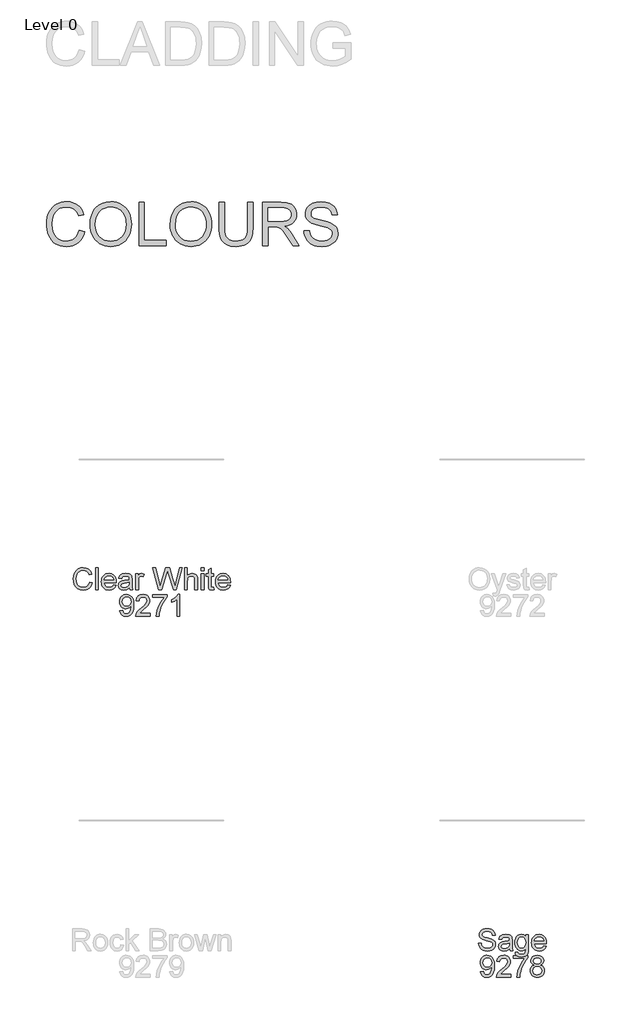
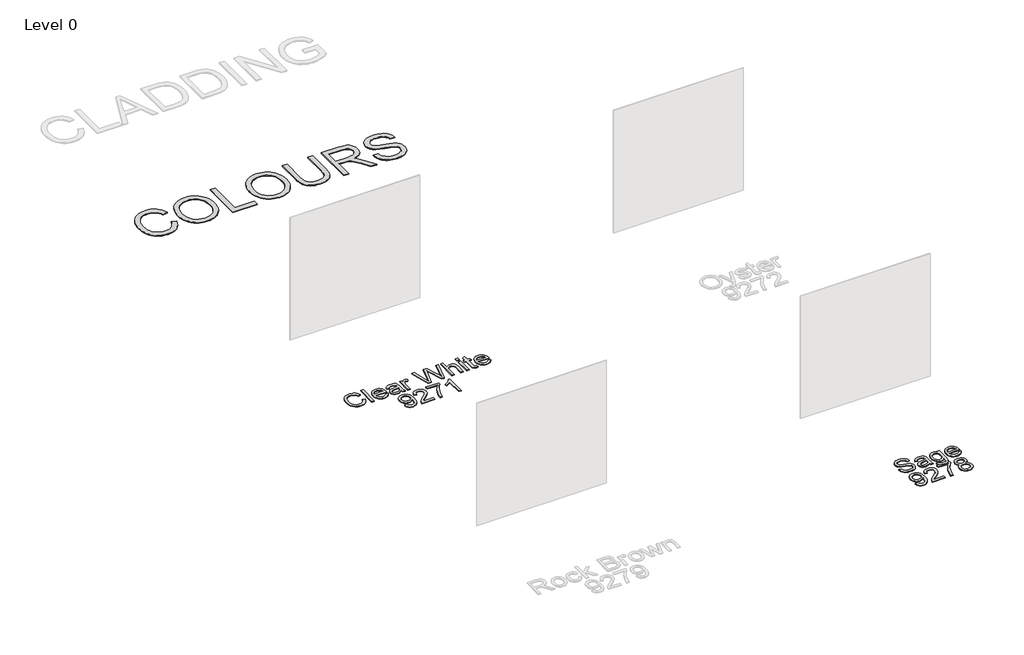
# One storey, part 2 of 6: 3 proxies.
"""IFC4 building model written with IfcOpenShell, lengths in millimetres."""

from ifc_helpers import new_model, si_unit, origin, origin_with_axes, place, context, project, spatial, polyline, outline, extrude, element, save

model = new_model("IFC4")

# Units and contexts
model_context = context("Model", 3, world=origin())
ifc_project = project(units=[si_unit("LENGTHUNIT", "METRE", prefix="MILLI")], contexts=[model_context])

# Site, building, storey
site = spatial("IfcSite", under=ifc_project)
building = spatial("IfcBuilding", under=site)
storey = spatial("IfcBuildingStorey", under=building, Name="Level 0", Elevation=0.0)

# Proxies
placement = place(None, origin())
element("IfcBuildingElementProxy", 1, Name="300mm Arial", ObjectType="300mm Arial", at=placement, inside=storey, context=model_context, shape_type="SweptSolid", body=[
    extrude(outline(polyline([(-10310.030397, -6895.733257), (-10272.3592807, -6905.4453417), (-10279.8134897, -6928.872527), (-10289.741705, -6949.3428607), (-10302.1439268, -6966.856343), (-10317.0201549, -6981.4129737), (-10334.0346972, -6992.856403), (-10352.8518613, -7001.0302811), (-10373.4716471, -7005.9346079), (-10395.8940547, -7007.5693835), (-10439.5892387, -7002.6213707), (-10474.2897079, -6987.7773322), (-10500.8875761, -6963.5523028), (-10520.2749573, -6930.4613173), (-10532.1115605, -6891.5577963), (-10536.0570949, -6849.8951604), (-10531.5965257, -6805.9516561), (-10518.2148181, -6768.0046283), (-10496.6109479, -6737.2588905), (-10467.483891, -6714.9192564), (-10432.9397716, -6701.3168196), (-10395.0847143, -6696.782674), (-10353.7807633, -6702.6503918), (-10335.8120271, -6709.9850391), (-10319.6321171, -6720.2535453), (-10305.5077478, -6733.1845974), (-10293.7056335, -6748.5068825), (-10277.0681703, -6786.3251516), (-10314.7392866, -6795.3014723), (-10327.7990974, -6767.8298843), (-10345.6413742, -6748.9851291), (-10368.4868461, -6738.086625), (-10396.5562423, -6734.4537903), (-10428.9114638, -6738.4820981), (-10455.4909379, -6750.5670217), (-10475.6600683, -6769.439368), (-10488.7842585, -6793.8299443), (-10495.9855486, -6821.4026999), (-10498.3859786, -6849.821584), (-10495.5440902, -6884.6232207), (-10487.0184249, -6914.7159679), (-10472.4870861, -6938.9501944), (-10451.628177, -6956.1762688), (-10426.6213984, -6966.4677676), (-10399.6464511, -6969.8982672), (-10368.2017375, -6965.2261659), (-10341.9993424, -6951.2098619), (-10322.2164881, -6927.996508), (-10310.030397, -6895.733257)])), origin_with_axes(), (0.0, 0.0, 1.0), 10.0),
    extrude(outline(polyline([(-10225.2703854, -7002.860494), (-10225.2703854, -6701.4915635), (-10187.599269, -6701.4915635), (-10187.599269, -7002.860494), (-10225.2703854, -7002.860494)])), origin_with_axes(), (0.0, 0.0, 1.0), 10.0),
    extrude(outline(polyline([(-9976.1406982, -6936.9360404), (-9939.2053459, -6941.64493), (-9952.5134771, -6969.4752029), (-9973.7494652, -6990.2789297), (-10002.4350638, -7003.2467701), (-10038.0920262, -7007.5693835), (-10061.4663285, -7005.7046817), (-10082.2930479, -7000.1105761), (-10100.5721846, -6990.7870668), (-10116.3037384, -6977.7341537), (-10128.9542805, -6961.3151204), (-10137.990382, -6941.8932503), (-10143.4120429, -6919.4685435), (-10145.2192632, -6894.0409998), (-10143.3936488, -6867.7512327), (-10137.9168056, -6844.5792656), (-10128.7887336, -6824.5250983), (-10116.0094328, -6807.5887309), (-10100.3192657, -6794.133447), (-10082.4585948, -6784.5225298), (-10062.4274202, -6778.7559796), (-10040.2257418, -6776.8337961), (-10018.739134, -6778.751381), (-9999.3080669, -6784.5041357), (-9981.9325404, -6794.0920602), (-9966.6125545, -6807.5151545), (-9954.106866, -6824.4147337), (-9945.1742313, -6844.4321128), (-9939.8146505, -6867.5672917), (-9938.0281235, -6893.8202706), (-9938.2488527, -6903.9738137), (-10107.5481469, -6903.9738137), (-10101.0274385, -6932.1719686), (-10085.8798974, -6952.902119), (-10064.0185098, -6965.6492302), (-10037.3562622, -6969.8982672), (-10017.3066935, -6967.9300985), (-10000.4209099, -6962.0255925), (-9986.6989115, -6951.8168672), (-9976.1406982, -6936.9360404)]), holes=[polyline([(-10107.5481469, -6866.3026974), (-9975.6992398, -6866.3026974), (-9980.7944055, -6846.4002814), (-9990.7824016, -6832.1632482), (-10012.7449567, -6818.9194964), (-10040.3728946, -6814.5049125), (-10065.7659493, -6818.0273826), (-10086.7628142, -6828.5947929), (-10101.3585323, -6845.0667092), (-10107.5481469, -6866.3026974)])]), origin_with_axes(), (0.0, 0.0, 1.0), 10.0),
    extrude(outline(polyline([(-9759.0903211, -6974.6071568), (-9777.0889477, -6990.0398064), (-9795.6210032, -7000.1381672), (-9815.1095519, -7005.7115794), (-9835.9776581, -7007.5693835), (-9867.4591598, -7003.0996173), (-9890.6817107, -6989.6903186), (-9905.0015174, -6969.3280501), (-9909.7747863, -6943.9993748), (-9907.9721645, -6928.3827841), (-9902.5642992, -6914.2009331), (-9894.2225749, -6902.0608273), (-9883.6183764, -6892.5694718), (-9857.2412374, -6880.2086368), (-9824.6468926, -6874.5432541), (-9786.1296477, -6868.5835657), (-9759.3110503, -6861.5938078), (-9759.0903211, -6853.2060983), (-9761.6838891, -6836.3938912), (-9769.4645933, -6825.3942195), (-9786.8654117, -6817.2272392), (-9811.1088352, -6814.5049125), (-9833.5496369, -6816.3167313), (-9849.2214099, -6821.7521878), (-9859.9083818, -6831.8045633), (-9867.3947804, -6847.4671392), (-9905.0658967, -6842.7582497), (-9898.5267943, -6822.156858), (-9888.7687244, -6805.9700502), (-9874.881179, -6793.590821), (-9855.9536504, -6784.4121652), (-9832.8046758, -6778.7283884), (-9806.2527928, -6776.8337961), (-9780.7861617, -6778.5076592), (-9760.5986372, -6783.5292485), (-9745.3775197, -6791.0800264), (-9734.8101094, -6800.3414556), (-9727.8019574, -6811.7917827), (-9723.2586147, -6825.9092543), (-9721.4192048, -6858.8714811), (-9721.4192048, -6905.7396473), (-9719.5062184, -6971.1858542), (-9712.0014257, -7002.860494), (-9749.672542, -7002.860494), (-9759.0903211, -6974.6071568)]), holes=[polyline([(-9759.0903211, -6899.2649241), (-9819.8644267, -6910.8164188), (-9852.2748304, -6916.9232599), (-9866.953322, -6926.8560738), (-9872.10367, -6941.3506244), (-9869.2985698, -6952.5526311), (-9860.8832691, -6961.7312869), (-9847.0417091, -6967.8565221), (-9827.9578306, -6969.8982672), (-9807.7243208, -6967.64499), (-9789.8452559, -6960.8851583), (-9775.3507053, -6950.9247533), (-9765.2707386, -6939.069756), (-9760.8009723, -6926.8560738), (-9759.3110503, -6909.933502), (-9759.0903211, -6899.2649241)])]), origin_with_axes(), (0.0, 0.0, 1.0), 10.0),
    extrude(outline(polyline([(-9669.6214198, -7002.860494), (-9669.6214198, -6781.5426857), (-9636.6591931, -6781.5426857), (-9636.6591931, -6814.2841833), (-9624.482299, -6795.3014723), (-9613.2618982, -6784.1178596), (-9602.0047091, -6778.654812), (-9589.7174505, -6776.8337961), (-9570.9554687, -6779.7400639), (-9551.8991814, -6788.4588672), (-9564.4807456, -6822.2304343), (-9577.7244974, -6816.4362929), (-9590.9682493, -6814.5049125), (-9602.2162413, -6816.3627165), (-9612.2686168, -6821.9361288), (-9620.3896118, -6830.8020848), (-9625.8434624, -6842.5375205), (-9630.4235933, -6863.5803706), (-9631.9503035, -6886.5362071), (-9631.9503035, -7002.860494), (-9669.6214198, -7002.860494)])), origin_with_axes(), (0.0, 0.0, 1.0), 10.0),
    extrude(outline(polyline([(-9351.9921052, -7002.860494), (-9434.1769429, -6701.4915635), (-9395.3286042, -6701.4915635), (-9347.6510977, -6899.5592297), (-9332.9358179, -6960.7012173), (-9317.1904685, -6906.622564), (-9257.4464324, -6701.4915635), (-9201.4547928, -6701.4915635), (-9158.0447173, -6850.189466), (-9139.4482825, -6905.3717653), (-9125.7446782, -6960.7012173), (-9111.4708568, -6901.3250633), (-9063.3518918, -6701.4915635), (-9024.5035531, -6701.4915635), (-9106.7619672, -7002.860494), (-9147.0082575, -7002.860494), (-9219.2602813, -6770.359073), (-9229.340248, -6737.9118811), (-9240.6710135, -6776.9809489), (-9306.5218906, -7002.860494), (-9351.9921052, -7002.860494)])), origin_with_axes(), (0.0, 0.0, 1.0), 10.0),
    extrude(outline(polyline([(-8991.5413263, -7002.860494), (-8991.5413263, -6701.4915635), (-8953.87021, -6701.4915635), (-8953.87021, -6812.2976205), (-8940.0332485, -6796.7821973), (-8924.4948327, -6785.6997522), (-8907.2549627, -6779.0502852), (-8888.3136385, -6776.8337961), (-8865.5601371, -6779.2526203), (-8846.007209, -6786.5090926), (-8830.6113475, -6798.0329961), (-8820.3290458, -6813.2541137), (-8814.5349043, -6834.1682051), (-8812.6035239, -6862.7710302), (-8812.6035239, -7002.860494), (-8850.2746402, -7002.860494), (-8850.2746402, -6866.6705794), (-8853.2728784, -6843.0893435), (-8862.2675932, -6826.9393239), (-8876.7621438, -6817.6135153), (-8896.2598896, -6814.5049125), (-8912.1799829, -6816.6018398), (-8927.125189, -6822.8926219), (-8939.5044181, -6832.7702535), (-8947.7265807, -6845.6277292), (-8952.3343027, -6862.7158479), (-8953.87021, -6885.2854083), (-8953.87021, -7002.860494), (-8991.5413263, -7002.860494)])), origin_with_axes(), (0.0, 0.0, 1.0), 10.0),
    extrude(outline(polyline([(-8760.805739, -6739.1626798), (-8760.805739, -6701.4915635), (-8723.1346226, -6701.4915635), (-8723.1346226, -6739.1626798), (-8760.805739, -6739.1626798)])), origin_with_axes(), (0.0, 0.0, 1.0), 10.0),
    extrude(outline(polyline([(-8760.805739, -7002.860494), (-8760.805739, -6781.5426857), (-8723.1346226, -6781.5426857), (-8723.1346226, -7002.860494), (-8760.805739, -7002.860494)])), origin_with_axes(), (0.0, 0.0, 1.0), 10.0),
    extrude(outline(polyline([(-8586.576826, -6971.4433716), (-8581.8679365, -7003.96414), (-8610.0476973, -7007.5693835), (-8628.1290974, -7006.005885), (-8641.6119725, -7001.3153896), (-8651.1401162, -6994.0865084), (-8657.3573219, -6984.9078526), (-8660.7786245, -6969.1441091), (-8661.9190586, -6942.1599648), (-8661.9190586, -6819.213802), (-8690.1723959, -6819.213802), (-8690.1723959, -6781.5426857), (-8661.9190586, -6781.5426857), (-8661.9190586, -6727.758338), (-8624.2479423, -6705.6118419), (-8624.2479423, -6781.5426857), (-8586.576826, -6781.5426857), (-8586.576826, -6819.213802), (-8624.2479423, -6819.213802), (-8624.2479423, -6941.0563188), (-8622.2613796, -6960.4804881), (-8615.8234447, -6967.3598814), (-8602.984363, -6969.8982672), (-8586.576826, -6971.4433716)])), origin_with_axes(), (0.0, 0.0, 1.0), 10.0),
    extrude(outline(polyline([(-8393.9538134, -6936.9360404), (-8357.018461, -6941.64493), (-8370.3265922, -6969.4752029), (-8391.5625804, -6990.2789297), (-8420.248179, -7003.2467701), (-8455.9051413, -7007.5693835), (-8479.2794436, -7005.7046817), (-8500.1061631, -7000.1105761), (-8518.3852997, -6990.7870668), (-8534.1168535, -6977.7341537), (-8546.7673956, -6961.3151204), (-8555.8034971, -6941.8932503), (-8561.225158, -6919.4685435), (-8563.0323783, -6894.0409998), (-8561.2067639, -6867.7512327), (-8555.7299207, -6844.5792656), (-8546.6018487, -6824.5250983), (-8533.8225479, -6807.5887309), (-8518.1323808, -6794.133447), (-8500.27171, -6784.5225298), (-8480.2405353, -6778.7559796), (-8458.0388569, -6776.8337961), (-8436.5522491, -6778.751381), (-8417.121182, -6784.5041357), (-8399.7456555, -6794.0920602), (-8384.4256697, -6807.5151545), (-8371.9199811, -6824.4147337), (-8362.9873464, -6844.4321128), (-8357.6277656, -6867.5672917), (-8355.8412387, -6893.8202706), (-8356.0619679, -6903.9738137), (-8525.361262, -6903.9738137), (-8518.8405537, -6932.1719686), (-8503.6930125, -6952.902119), (-8481.831625, -6965.6492302), (-8455.1693774, -6969.8982672), (-8435.1198086, -6967.9300985), (-8418.234025, -6962.0255925), (-8404.5120266, -6951.8168672), (-8393.9538134, -6936.9360404)]), holes=[polyline([(-8525.361262, -6866.3026974), (-8393.512355, -6866.3026974), (-8398.6075206, -6846.4002814), (-8408.5955168, -6832.1632482), (-8430.5580719, -6818.9194964), (-8458.1860097, -6814.5049125), (-8483.5790644, -6818.0273826), (-8504.5759293, -6828.5947929), (-8519.1716475, -6845.0667092), (-8525.361262, -6866.3026974)])]), origin_with_axes(), (0.0, 0.0, 1.0), 10.0),
    extrude(outline(polyline([(-9888.5847834, -7293.4427149), (-9850.9136671, -7288.7338254), (-9844.4757321, -7310.1169663), (-9833.9910953, -7324.6758963), (-9819.7172739, -7333.0360146), (-9801.9117853, -7335.8227207), (-9785.9365097, -7334.029296), (-9771.4143679, -7328.6490218), (-9759.3478385, -7320.2705094), (-9750.7393998, -7309.4823699), (-9738.4153529, -7276.7408723), (-9732.9706994, -7233.0364913), (-9733.1914286, -7225.6788514), (-9746.2420424, -7241.6081418), (-9763.320964, -7254.2264942), (-9783.1957888, -7262.4486568), (-9804.6341121, -7265.1893777), (-9822.5292719, -7263.5155146), (-9838.9850934, -7258.4939254), (-9854.0015766, -7250.12461), (-9867.5787214, -7238.4075684), (-9878.8290127, -7223.9544045), (-9886.864935, -7207.3767221), (-9891.6864884, -7188.6745212), (-9893.2936729, -7167.8478018), (-9891.6083135, -7146.326705), (-9886.5522353, -7127.0129003), (-9878.1254384, -7109.9063875), (-9866.3279227, -7095.0071667), (-9851.9920212, -7082.9360387), (-9835.9500669, -7074.3138045), (-9818.2020599, -7069.1404639), (-9798.7480001, -7067.4160171), (-9770.6510128, -7071.3523544), (-9745.074017, -7083.1613665), (-9723.681679, -7102.254442), (-9708.1386647, -7128.0429699), (-9698.6749004, -7163.6907352), (-9695.5203123, -7212.3615232), (-9698.6657034, -7263.96617), (-9708.1018765, -7303.8537754), (-9723.7460584, -7333.8269609), (-9745.5154754, -7355.6883485), (-9772.4720286, -7369.0424649), (-9803.6776189, -7373.4938371), (-9835.8856876, -7368.2423216), (-9861.5822449, -7352.4877751), (-9879.5532804, -7327.2234791), (-9888.5847834, -7293.4427149)]), holes=[polyline([(-9733.1914286, -7166.964885), (-9737.2565246, -7141.4338745), (-9749.4518128, -7121.788976), (-9768.3793414, -7109.262594), (-9792.641159, -7105.0871334), (-9817.8042875, -7109.5844908), (-9837.9642208, -7123.0765629), (-9851.2079727, -7143.7239399), (-9855.6225566, -7169.6872117), (-9851.447096, -7192.964945), (-9838.920714, -7211.4418182), (-9819.2574214, -7223.4991506), (-9793.6712286, -7227.5182614), (-9769.6025491, -7223.4991506), (-9750.224365, -7211.4418182), (-9737.4496627, -7192.2843633), (-9733.1914286, -7166.964885)])]), origin_with_axes(), (0.0, 0.0, 1.0), 10.0),
    extrude(outline(polyline([(-9469.4936145, -7331.1138312), (-9469.4936145, -7368.7849475), (-9667.2669751, -7368.7849475), (-9663.2202731, -7342.8124787), (-9653.9312527, -7322.5145896), (-9640.338013, -7302.8237058), (-9620.6747204, -7282.213117), (-9593.1755412, -7259.156113), (-9552.5245808, -7223.0484951), (-9528.1340045, -7196.3954446), (-9515.9387164, -7174.7639833), (-9511.8736203, -7153.7211331), (-9515.7087901, -7134.8579838), (-9527.2142995, -7119.1770138), (-9544.9002264, -7108.6096035), (-9567.2766488, -7105.0871334), (-9590.7751112, -7108.52683), (-9609.0312552, -7118.84592), (-9620.8126761, -7135.2350629), (-9624.8869692, -7156.8849183), (-9662.5580855, -7152.1760288), (-9653.425415, -7115.7373171), (-9644.8790564, -7101.2013798), (-9633.6793489, -7089.1210548), (-9620.0838099, -7079.6251008), (-9604.3499568, -7072.8422765), (-9566.4673084, -7067.4160171), (-9546.2774846, -7068.9243332), (-9528.3087484, -7073.4492818), (-9512.5610998, -7080.9908627), (-9499.0345387, -7091.549076), (-9488.1705235, -7104.3421723), (-9480.4105127, -7118.5884026), (-9475.7545062, -7134.2877667), (-9474.202504, -7151.4402648), (-9475.8763671, -7169.4572855), (-9480.8979563, -7187.1616065), (-9489.8098976, -7205.1694302), (-9503.154817, -7224.0969588), (-9524.4275934, -7246.6941104), (-9557.1231057, -7275.7108027), (-9600.4596047, -7311.9471793), (-9617.4557529, -7331.1138312), (-9469.4936145, -7331.1138312)])), origin_with_axes(), (0.0, 0.0, 1.0), 10.0),
    extrude(outline(polyline([(-9431.8224982, -7109.7960229), (-9431.8224982, -7072.1249066), (-9234.0491375, -7072.1249066), (-9234.0491375, -7102.5855358), (-9262.2380954, -7138.2608923), (-9290.1511418, -7183.6299393), (-9314.7716443, -7234.5540045), (-9333.0829706, -7286.8944154), (-9342.0592913, -7326.0554538), (-9347.0624865, -7368.7849475), (-9384.7336028, -7368.7849475), (-9380.6593097, -7329.9550029), (-9369.7608056, -7283.8042066), (-9352.332396, -7234.8850983), (-9328.6683867, -7187.7502177), (-9301.0404489, -7145.1402856), (-9271.7202539, -7109.7960229), (-9431.8224982, -7109.7960229)])), origin_with_axes(), (0.0, 0.0, 1.0), 10.0),
    extrude(outline(polyline([(-9059.8202246, -7368.7849475), (-9097.4913409, -7368.7849475), (-9097.4913409, -7133.9290818), (-9133.1758945, -7159.3497277), (-9172.8335735, -7178.3692268), (-9172.8335735, -7142.7582497), (-9143.2466641, -7126.6634124), (-9117.6144861, -7107.5151545), (-9097.4085675, -7087.1528861), (-9084.1004363, -7067.4160171), (-9059.8202246, -7067.4160171), (-9059.8202246, -7368.7849475)])), origin_with_axes(), (0.0, 0.0, 1.0), 10.0),
])
element("IfcBuildingElementProxy", 2, Name="300mm Arial", ObjectType="300mm Arial", at=placement, inside=storey, context=model_context, shape_type="SweptSolid", body=[
    extrude(outline(polyline([(-4916.8381206, -11899.2649241), (-4879.1670043, -11899.2649241), (-4874.8443908, -11920.1698185), (-4867.0268984, -11936.9728286), (-4854.8316103, -11950.308551), (-4837.3756096, -11960.8115819), (-4816.0384539, -11967.6265959), (-4792.1997006, -11969.8982672), (-4771.2120328, -11968.1784189), (-4752.8363271, -11963.0188739), (-4737.9463034, -11954.8518936), (-4727.4156813, -11944.1097394), (-4721.1524903, -11931.7764955), (-4719.06476, -11918.8362463), (-4720.6282585, -11906.2270909), (-4725.3187539, -11895.3285868), (-4734.8468976, -11886.0303694), (-4750.9233408, -11878.222074), (-4805.7745463, -11863.837888), (-4841.7809965, -11854.3189414), (-4864.8196065, -11845.2598472), (-4883.5723912, -11832.5863125), (-4896.8621283, -11817.2272392), (-4904.7807882, -11799.5137211), (-4907.4203415, -11779.7768521), (-4904.1553888, -11757.7131294), (-4894.3605307, -11737.1393289), (-4878.2932846, -11719.7017223), (-4856.2111678, -11707.0465817), (-4829.70527, -11699.3486509), (-4800.3666809, -11696.782674), (-4768.5816765, -11699.4682126), (-4740.7697977, -11707.5248283), (-4717.9243258, -11720.7869742), (-4701.0385422, -11739.0891034), (-4690.3515703, -11761.2907818), (-4686.1025332, -11786.2515752), (-4723.7736495, -11786.2515752), (-4730.689831, -11763.7739853), (-4745.1108052, -11747.5503893), (-4767.6435775, -11737.7279401), (-4798.8951529, -11734.4537903), (-4830.8824924, -11737.6911519), (-4852.8266534, -11747.4032365), (-4865.5185823, -11761.695452), (-4869.7492252, -11778.6732061), (-4866.750987, -11793.1493626), (-4857.7562722, -11804.7928278), (-4836.4926928, -11815.2038882), (-4796.2464026, -11825.8356779), (-4754.7125253, -11835.9340387), (-4729.5861851, -11844.7448125), (-4708.1110736, -11858.4116286), (-4693.1290793, -11875.2790181), (-4684.3275026, -11895.1630399), (-4681.3936437, -11917.8797531), (-4684.768961, -11941.102304), (-4694.8949129, -11962.9452975), (-4711.3576322, -11981.7440675), (-4733.7432516, -11995.8339479), (-4760.6630166, -12004.6355246), (-4790.7281726, -12007.5693835), (-4827.6359338, -12004.4055984), (-4858.0137896, -11994.9142429), (-4882.2112278, -11979.0585289), (-4900.5777364, -11956.8016682), (-4912.3683544, -11929.6887651), (-4916.8381206, -11899.2649241)])), origin_with_axes(), (0.0, 0.0, 1.0), 10.0),
    extrude(outline(polyline([(-4488.3291726, -11974.6071568), (-4506.3277992, -11990.0398064), (-4524.8598547, -12000.1381672), (-4544.3484034, -12005.7115794), (-4565.2165096, -12007.5693835), (-4596.6980113, -12003.0996173), (-4619.9205623, -11989.6903186), (-4634.240369, -11969.3280501), (-4639.0136378, -11943.9993748), (-4637.2110161, -11928.3827841), (-4631.8031507, -11914.2009331), (-4623.4614265, -11902.0608273), (-4612.857228, -11892.5694718), (-4586.4800889, -11880.2086368), (-4553.8857442, -11874.5432541), (-4515.3684993, -11868.5835657), (-4488.5499018, -11861.5938078), (-4488.3291726, -11853.2060983), (-4490.9227407, -11836.3938912), (-4498.7034449, -11825.3942195), (-4516.1042632, -11817.2272392), (-4540.3476867, -11814.5049125), (-4562.7884884, -11816.3167313), (-4578.4602614, -11821.7521878), (-4589.1472334, -11831.8045633), (-4596.633632, -11847.4671392), (-4634.3047483, -11842.7582497), (-4627.7656458, -11822.156858), (-4618.0075759, -11805.9700502), (-4604.1200306, -11793.590821), (-4585.1925019, -11784.4121652), (-4562.0435274, -11778.7283884), (-4535.4916444, -11776.8337961), (-4510.0250133, -11778.5076592), (-4489.8374888, -11783.5292485), (-4474.6163712, -11791.0800264), (-4464.0489609, -11800.3414556), (-4457.0408089, -11811.7917827), (-4452.4974663, -11825.9092543), (-4450.6580563, -11858.8714811), (-4450.6580563, -11905.7396473), (-4448.7450699, -11971.1858542), (-4441.2402772, -12002.860494), (-4478.9113935, -12002.860494), (-4488.3291726, -11974.6071568)]), holes=[polyline([(-4488.3291726, -11899.2649241), (-4549.1032782, -11910.8164188), (-4581.513682, -11916.9232599), (-4596.1921736, -11926.8560738), (-4601.3425215, -11941.3506244), (-4598.5374213, -11952.5526311), (-4590.1221207, -11961.7312869), (-4576.2805606, -11967.8565221), (-4557.1966821, -11969.8982672), (-4536.9631724, -11967.64499), (-4519.0841074, -11960.8851583), (-4504.5895568, -11950.9247533), (-4494.5095901, -11939.069756), (-4490.0398239, -11926.8560738), (-4488.5499018, -11909.933502), (-4488.3291726, -11899.2649241)])]), origin_with_axes(), (0.0, 0.0, 1.0), 10.0),
    extrude(outline(polyline([(-4408.2780505, -12021.6960521), (-4370.6069342, -12026.4049417), (-4366.4498676, -12038.1771655), (-4358.3932519, -12046.2705694), (-4342.555932, -12052.5613515), (-4321.8257816, -12054.6582789), (-4299.7160737, -12052.28544), (-4283.2717485, -12045.1669234), (-4271.8674067, -12033.7625816), (-4264.8776487, -12018.532267), (-4262.3024748, -11974.6071568), (-4274.8380538, -11986.9679918), (-4288.8267666, -11995.7971597), (-4304.2686134, -12001.0946604), (-4321.163594, -12002.860494), (-4341.8178688, -12000.8049533), (-4360.0027356, -11994.6383314), (-4375.7181946, -11984.3606281), (-4388.9642457, -11969.9718436), (-4399.4741745, -11952.708981), (-4406.9812664, -11933.8090435), (-4411.4855216, -11913.2720311), (-4412.98694, -11891.0979438), (-4410.2922044, -11860.6832999), (-4402.2079975, -11832.7150712), (-4389.019428, -11809.0142737), (-4371.0116044, -11791.4019232), (-4348.8007289, -11780.4758279), (-4323.003004, -11776.8337961), (-4305.3860549, -11778.8939353), (-4289.3969837, -11785.0743528), (-4275.0357903, -11795.3750487), (-4262.3024748, -11809.7960229), (-4262.3024748, -11781.5426857), (-4224.6313585, -11781.5426857), (-4224.6313585, -11972.620594), (-4227.2065324, -12016.7388422), (-4234.9320543, -12045.7923228), (-4248.2401855, -12065.0601423), (-4267.5631873, -12079.8214074), (-4292.4779954, -12089.2023982), (-4322.5615456, -12092.3293952), (-4357.6115027, -12087.9240083), (-4385.2118494, -12074.7078476), (-4395.606815, -12064.7865301), (-4402.9161704, -12052.644125), (-4407.1399155, -12038.2806323), (-4408.2780505, -12021.6960521)]), holes=[polyline([(-4375.3158237, -11888.5227699), (-4371.2967129, -11923.0760863), (-4359.2393805, -11946.8320661), (-4341.1119952, -11960.6000498), (-4318.8827256, -11965.1893777), (-4296.819003, -11960.6276409), (-4278.5996472, -11946.9424307), (-4266.3767679, -11923.4899535), (-4262.3024748, -11889.6264159), (-4266.4963295, -11856.9676917), (-4279.0778938, -11833.4508352), (-4297.563964, -11819.2413931), (-4319.4713368, -11814.5049125), (-4340.9832365, -11819.1678167), (-4359.0186513, -11833.1565296), (-4371.2415306, -11856.3238983), (-4375.3158237, -11888.5227699)])]), origin_with_axes(), (0.0, 0.0, 1.0), 10.0),
    extrude(outline(polyline([(-4013.1727876, -11936.9360404), (-3976.2374353, -11941.64493), (-3989.5455665, -11969.4752029), (-4010.7815547, -11990.2789297), (-4039.4671532, -12003.2467701), (-4075.1241156, -12007.5693835), (-4098.4984179, -12005.7046817), (-4119.3251374, -12000.1105761), (-4137.604274, -11990.7870668), (-4153.3358278, -11977.7341537), (-4165.9863699, -11961.3151204), (-4175.0224714, -11941.8932503), (-4180.4441323, -11919.4685435), (-4182.2513526, -11894.0409998), (-4180.4257382, -11867.7512327), (-4174.948895, -11844.5792656), (-4165.820823, -11824.5250983), (-4153.0415222, -11807.5887309), (-4137.3513551, -11794.133447), (-4119.4906842, -11784.5225298), (-4099.4595096, -11778.7559796), (-4077.2578312, -11776.8337961), (-4055.7712234, -11778.751381), (-4036.3401563, -11784.5041357), (-4018.9646298, -11794.0920602), (-4003.644644, -11807.5151545), (-3991.1389554, -11824.4147337), (-3982.2063207, -11844.4321128), (-3976.8467399, -11867.5672917), (-3975.0602129, -11893.8202706), (-3975.2809421, -11903.9738137), (-4144.5802363, -11903.9738137), (-4138.059528, -11932.1719686), (-4122.9119868, -11952.902119), (-4101.0505992, -11965.6492302), (-4074.3883516, -11969.8982672), (-4054.3387829, -11967.9300985), (-4037.4529993, -11962.0255925), (-4023.7310009, -11951.8168672), (-4013.1727876, -11936.9360404)]), holes=[polyline([(-4144.5802363, -11866.3026974), (-4012.7313292, -11866.3026974), (-4017.8264949, -11846.4002814), (-4027.8144911, -11832.1632482), (-4049.7770462, -11818.9194964), (-4077.404984, -11814.5049125), (-4102.7980387, -11818.0273826), (-4123.7949036, -11828.5947929), (-4138.3906218, -11845.0667092), (-4144.5802363, -11866.3026974)])]), origin_with_axes(), (0.0, 0.0, 1.0), 10.0),
    extrude(outline(polyline([(-4888.5847834, -12293.4427149), (-4850.9136671, -12288.7338254), (-4844.4757321, -12310.1169663), (-4833.9910953, -12324.6758963), (-4819.7172739, -12333.0360146), (-4801.9117853, -12335.8227207), (-4785.9365097, -12334.029296), (-4771.4143679, -12328.6490218), (-4759.3478385, -12320.2705094), (-4750.7393998, -12309.4823699), (-4738.4153529, -12276.7408723), (-4732.9706994, -12233.0364913), (-4733.1914286, -12225.6788514), (-4746.2420424, -12241.6081418), (-4763.320964, -12254.2264942), (-4783.1957888, -12262.4486568), (-4804.6341121, -12265.1893777), (-4822.5292719, -12263.5155146), (-4838.9850934, -12258.4939254), (-4854.0015766, -12250.12461), (-4867.5787214, -12238.4075684), (-4878.8290127, -12223.9544045), (-4886.864935, -12207.3767221), (-4891.6864884, -12188.6745212), (-4893.2936729, -12167.8478018), (-4891.6083135, -12146.326705), (-4886.5522353, -12127.0129003), (-4878.1254384, -12109.9063875), (-4866.3279227, -12095.0071667), (-4851.9920212, -12082.9360387), (-4835.9500669, -12074.3138045), (-4818.2020599, -12069.1404639), (-4798.7480001, -12067.4160171), (-4770.6510128, -12071.3523544), (-4745.074017, -12083.1613665), (-4723.681679, -12102.254442), (-4708.1386647, -12128.0429699), (-4698.6749004, -12163.6907352), (-4695.5203123, -12212.3615232), (-4698.6657034, -12263.96617), (-4708.1018765, -12303.8537754), (-4723.7460584, -12333.8269609), (-4745.5154754, -12355.6883485), (-4772.4720286, -12369.0424649), (-4803.6776189, -12373.4938371), (-4835.8856876, -12368.2423216), (-4861.5822449, -12352.4877751), (-4879.5532804, -12327.2234791), (-4888.5847834, -12293.4427149)]), holes=[polyline([(-4733.1914286, -12166.964885), (-4737.2565246, -12141.4338745), (-4749.4518128, -12121.788976), (-4768.3793414, -12109.262594), (-4792.641159, -12105.0871334), (-4817.8042875, -12109.5844908), (-4837.9642208, -12123.0765629), (-4851.2079727, -12143.7239399), (-4855.6225566, -12169.6872117), (-4851.447096, -12192.964945), (-4838.920714, -12211.4418182), (-4819.2574214, -12223.4991506), (-4793.6712286, -12227.5182614), (-4769.6025491, -12223.4991506), (-4750.224365, -12211.4418182), (-4737.4496627, -12192.2843633), (-4733.1914286, -12166.964885)])]), origin_with_axes(), (0.0, 0.0, 1.0), 10.0),
    extrude(outline(polyline([(-4469.4936145, -12331.1138312), (-4469.4936145, -12368.7849475), (-4667.2669751, -12368.7849475), (-4663.2202731, -12342.8124787), (-4653.9312527, -12322.5145896), (-4640.338013, -12302.8237058), (-4620.6747204, -12282.213117), (-4593.1755412, -12259.156113), (-4552.5245808, -12223.0484951), (-4528.1340045, -12196.3954446), (-4515.9387164, -12174.7639833), (-4511.8736203, -12153.7211331), (-4515.7087901, -12134.8579838), (-4527.2142995, -12119.1770138), (-4544.9002264, -12108.6096035), (-4567.2766488, -12105.0871334), (-4590.7751112, -12108.52683), (-4609.0312552, -12118.84592), (-4620.8126761, -12135.2350629), (-4624.8869692, -12156.8849183), (-4662.5580855, -12152.1760288), (-4653.425415, -12115.7373171), (-4644.8790564, -12101.2013798), (-4633.6793489, -12089.1210548), (-4620.0838099, -12079.6251008), (-4604.3499568, -12072.8422765), (-4566.4673084, -12067.4160171), (-4546.2774846, -12068.9243332), (-4528.3087484, -12073.4492818), (-4512.5610998, -12080.9908627), (-4499.0345387, -12091.549076), (-4488.1705235, -12104.3421723), (-4480.4105127, -12118.5884026), (-4475.7545062, -12134.2877667), (-4474.202504, -12151.4402648), (-4475.8763671, -12169.4572855), (-4480.8979563, -12187.1616065), (-4489.8098976, -12205.1694302), (-4503.154817, -12224.0969588), (-4524.4275934, -12246.6941104), (-4557.1231057, -12275.7108027), (-4600.4596047, -12311.9471793), (-4617.4557529, -12331.1138312), (-4469.4936145, -12331.1138312)])), origin_with_axes(), (0.0, 0.0, 1.0), 10.0),
    extrude(outline(polyline([(-4431.8224982, -12109.7960229), (-4431.8224982, -12072.1249066), (-4234.0491375, -12072.1249066), (-4234.0491375, -12102.5855358), (-4262.2380954, -12138.2608923), (-4290.1511418, -12183.6299393), (-4314.7716443, -12234.5540045), (-4333.0829706, -12286.8944154), (-4342.0592913, -12326.0554538), (-4347.0624865, -12368.7849475), (-4384.7336028, -12368.7849475), (-4380.6593097, -12329.9550029), (-4369.7608056, -12283.8042066), (-4352.332396, -12234.8850983), (-4328.6683867, -12187.7502177), (-4301.0404489, -12145.1402856), (-4271.7202539, -12109.7960229), (-4431.8224982, -12109.7960229)])), origin_with_axes(), (0.0, 0.0, 1.0), 10.0),
    extrude(outline(polyline([(-4146.1989171, -12202.7965913), (-4166.3680475, -12192.8637774), (-4180.5223072, -12179.3992964), (-4188.8824256, -12162.6790597), (-4191.6691317, -12142.9789789), (-4190.1516185, -12127.6153071), (-4185.5990788, -12113.5300252), (-4178.0115126, -12100.7231332), (-4167.38892, -12089.1946312), (-4154.2417372, -12079.6664875), (-4139.0804005, -12072.8606706), (-4102.7152653, -12067.4160171), (-4066.1294008, -12072.9894293), (-4050.8025172, -12079.9561946), (-4037.4529993, -12089.709666), (-4026.6372687, -12101.4634957), (-4018.9117468, -12114.4313361), (-4014.2764336, -12128.613187), (-4012.7313292, -12144.0090485), (-4015.4812472, -12163.0745329), (-4023.7310009, -12179.509661), (-4037.572561, -12192.8913686), (-4057.0978979, -12202.7965913), (-4033.9121351, -12214.7435591), (-4017.0355486, -12232.3375155), (-4006.7440498, -12254.732332), (-4003.3135502, -12281.0818799), (-4005.0150044, -12299.8714528), (-4010.1193671, -12317.0975272), (-4018.6266382, -12332.7601031), (-4030.5368178, -12346.8591806), (-4045.2245065, -12358.5118428), (-4062.0643048, -12366.8351729), (-4081.0562128, -12371.829171), (-4102.2002305, -12373.4938371), (-4123.3442481, -12371.8222732), (-4142.3361561, -12366.8075818), (-4159.1759545, -12358.4497627), (-4173.8636431, -12346.748816), (-4185.7738227, -12332.5508703), (-4194.2810939, -12316.702054), (-4199.3854566, -12299.2023674), (-4201.0869108, -12280.0518103), (-4197.5184554, -12252.6813898), (-4186.8130894, -12230.1670117), (-4169.5226356, -12213.2812282), (-4146.1989171, -12202.7965913)]), holes=[polyline([(-4153.9980154, -12144.0826249), (-4150.6594863, -12160.52695), (-4140.643899, -12173.6603373), (-4124.245559, -12182.268776), (-4101.7587721, -12185.1382555), (-4079.796217, -12182.2871701), (-4063.6461974, -12173.7339137), (-4053.7133835, -12161.0419848), (-4050.4024456, -12145.774882), (-4053.8237481, -12129.9283651), (-4064.0876558, -12116.822569), (-4080.4584046, -12108.0209923), (-4102.2002305, -12105.0871334), (-4124.0800121, -12107.9566129), (-4140.4231698, -12116.5650516), (-4150.604304, -12129.1834041), (-4153.9980154, -12144.0826249)]), polyline([(-4163.4157945, -12278.7274351), (-4157.1250124, -12307.0911369), (-4148.4154061, -12319.2588339), (-4134.8681516, -12328.317928), (-4118.6445557, -12333.9465226), (-4101.9059249, -12335.8227207), (-4076.2645498, -12331.8771864), (-4057.0243215, -12320.0405832), (-4044.9945802, -12302.1155329), (-4040.9846665, -12279.9046575), (-4045.1233389, -12257.316703), (-4057.5393563, -12238.9961796), (-4077.221043, -12226.8560738), (-4103.1567237, -12222.8093718), (-4128.4394138, -12226.8008915), (-4147.4865041, -12238.7754504), (-4159.4334719, -12256.7464859), (-4163.4157945, -12278.7274351)])]), origin_with_axes(), (0.0, 0.0, 1.0), 10.0),
])
element("IfcBuildingElementProxy", 3, Name="600mm Arial", ObjectType="600mm Arial", at=placement, inside=storey, context=model_context, shape_type="SweptSolid", body=[
    extrude(outline(polyline([(-10453.6631268, -2025.6175733), (-10378.3208942, -2045.0417427), (-10393.229312, -2091.8961133), (-10413.0857427, -2132.8367808), (-10437.8901863, -2167.8637453), (-10467.6426426, -2196.9770067), (-10501.6717272, -2219.8638653), (-10539.3060553, -2236.2116215), (-10580.5456269, -2246.0202752), (-10625.3904421, -2249.2898264), (-10671.3343048, -2246.81582), (-10712.7808101, -2239.3938007), (-10749.729958, -2227.0237686), (-10782.1817485, -2209.7057237), (-10810.5822385, -2187.6971834), (-10835.377485, -2161.255665), (-10856.5674879, -2130.3811685), (-10874.1522473, -2095.073694), (-10887.9616177, -2056.8599518), (-10897.8254537, -2017.266652), (-10903.7437553, -1976.2937948), (-10905.7165225, -1933.9413801), (-10903.4862379, -1888.4987567), (-10896.7953841, -1846.0543715), (-10885.6439611, -1806.6082246), (-10870.0319689, -1770.1603159), (-10850.3088955, -1737.3130522), (-10826.8242286, -1708.6688404), (-10799.5779683, -1684.2276803), (-10768.5701147, -1663.9895721), (-10734.8537298, -1648.1200625), (-10699.481876, -1636.7846985), (-10662.4545532, -1629.9834801), (-10623.7717614, -1627.7164074), (-10580.6789842, -1630.6502663), (-10541.1638594, -1639.451843), (-10505.2263869, -1654.1211376), (-10472.8665669, -1674.6581499), (-10444.6178282, -1700.5202542), (-10421.0135997, -1731.1648244), (-10402.0538814, -1766.5918605), (-10387.7386733, -1806.8013626), (-10463.0809059, -1824.754004), (-10474.9451002, -1795.1257078), (-10489.2005275, -1769.810828), (-10505.8471878, -1748.8093646), (-10524.8850811, -1732.1213176), (-10546.4245719, -1719.4063961), (-10570.5760249, -1710.3243094), (-10597.33944, -1704.8750573), (-10626.7148173, -1703.05864), (-10660.5139756, -1705.0727939), (-10691.4252603, -1711.1152557), (-10719.4486713, -1721.1860253), (-10744.5842086, -1735.2851027), (-10766.514574, -1752.7778916), (-10784.9224694, -1773.0297954), (-10799.8078946, -1796.0408142), (-10811.1708497, -1821.810948), (-10825.5734298, -1876.9564591), (-10830.3742899, -1933.7942273), (-10824.690513, -2003.3975008), (-10817.585792, -2034.6674704), (-10807.6391826, -2063.5829952), (-10794.6897363, -2089.5692597), (-10778.5765049, -2112.0514481), (-10759.2994884, -2131.0295605), (-10736.8586867, -2146.503597), (-10712.3439502, -2158.5103456), (-10686.8451294, -2167.0865946), (-10660.3622243, -2172.232344), (-10632.8952348, -2173.9475938), (-10600.1399417, -2171.6115431), (-10570.0058078, -2164.6033911), (-10542.4928331, -2152.9231378), (-10517.6010176, -2136.5707831), (-10495.9189725, -2115.6199035), (-10478.035309, -2090.1440753), (-10463.9500271, -2060.1432986), (-10453.6631268, -2025.6175733)])), origin_with_axes(), (0.0, 0.0, 1.0), 10.0),
    extrude(outline(polyline([(-10302.9786616, -1946.449368), (-10297.9570723, -1875.7516456), (-10282.8923046, -1813.1657211), (-10257.7843585, -1758.6915947), (-10241.4641935, -1734.4964557), (-10222.6332338, -1712.3292662), (-10179.5450551, -1675.3111405), (-10130.6259468, -1648.8696221), (-10075.8759089, -1633.004711), (-10015.2949413, -1627.7164074), (-9974.7451484, -1630.1996108), (-9936.2371006, -1637.6492212), (-9899.7707978, -1650.0652386), (-9865.3462401, -1667.4476628), (-9833.9291177, -1689.2722622), (-9806.4851209, -1715.0148048), (-9783.0142496, -1744.6752907), (-9763.5165038, -1778.2537198), (-9748.1942187, -1814.986737), (-9737.2497294, -1854.1109872), (-9730.6830358, -1895.6264703), (-9728.4941379, -1939.5331865), (-9730.7979989, -1984.0193167), (-9737.7095819, -2026.0958199), (-9749.2288869, -2065.7626961), (-9765.3559138, -2103.0199451), (-9785.7089852, -2136.8834828), (-9809.9064234, -2166.3692247), (-9837.9482285, -2191.4771709), (-9869.8344005, -2212.2073213), (-9904.3095419, -2228.4309173), (-9940.1182556, -2240.0192001), (-9977.2605416, -2246.9721698), (-10015.7363997, -2249.2898264), (-10056.9943655, -2246.728448), (-10096.0082511, -2239.0443128), (-10132.7780565, -2226.2374209), (-10167.3037818, -2208.3077721), (-10198.6841159, -2185.9497439), (-10226.0177482, -2159.8577134), (-10249.3046785, -2130.0316806), (-10268.5449068, -2096.4716456), (-10283.6096745, -2060.5249762), (-10294.3702229, -2023.5390401), (-10300.8265519, -1985.5138373), (-10302.9786616, -1946.449368)]), holes=[polyline([(-10227.636429, -1947.185132), (-10223.870237, -1997.1343099), (-10212.5716613, -2041.4732873), (-10193.7407016, -2080.2020644), (-10167.3773582, -2113.320641), (-10135.3302378, -2139.8449328), (-10099.4479477, -2158.7908556), (-10059.7304878, -2170.1584092), (-10016.1778581, -2173.9475938), (-9971.8802674, -2170.121621), (-9931.6937579, -2158.6437028), (-9895.6183298, -2139.513839), (-9863.6539829, -2112.7320298), (-9837.4837775, -2078.9144774), (-9818.7907736, -2038.6773842), (-9807.5749713, -1992.0207501), (-9803.8363705, -1938.9445753), (-9805.4366572, -1904.4648353), (-9810.2375172, -1872.2475695), (-9818.2389506, -1842.2927781), (-9829.4409574, -1814.6004609), (-9843.7193773, -1789.5339015), (-9860.9500503, -1767.4563832), (-9881.1329762, -1748.3679062), (-9904.2681552, -1732.2684704), (-9929.6382173, -1719.4891696), (-9956.5257926, -1710.3610976), (-9984.9308812, -1704.8842544), (-10014.853483, -1703.05864), (-10056.8931979, -1706.5765115), (-10095.8978865, -1717.1301263), (-10131.8675486, -1734.7194842), (-10164.8021842, -1759.3445852), (-10192.2921663, -1792.1918489), (-10211.9278678, -1834.4476945), (-10223.7092887, -1886.1121222), (-10227.636429, -1947.185132)])]), origin_with_axes(), (0.0, 0.0, 1.0), 10.0),
    extrude(outline(polyline([(-9624.8985681, -2239.8720473), (-9624.8985681, -1637.1341864), (-9549.5563355, -1637.1341864), (-9549.5563355, -2164.5298147), (-9248.187405, -2164.5298147), (-9248.187405, -2239.8720473), (-9624.8985681, -2239.8720473)])), origin_with_axes(), (0.0, 0.0, 1.0), 10.0),
    extrude(outline(polyline([(-9191.6807305, -1946.449368), (-9186.6591413, -1875.7516456), (-9171.5943736, -1813.1657211), (-9146.4864274, -1758.6915947), (-9130.1662624, -1734.4964557), (-9111.3353028, -1712.3292662), (-9068.2471241, -1675.3111405), (-9019.3280158, -1648.8696221), (-8964.5779779, -1633.004711), (-8903.9970103, -1627.7164074), (-8863.4472174, -1630.1996108), (-8824.9391696, -1637.6492212), (-8788.4728668, -1650.0652386), (-8754.0483091, -1667.4476628), (-8722.6311867, -1689.2722622), (-8695.1871899, -1715.0148048), (-8671.7163186, -1744.6752907), (-8652.2185728, -1778.2537198), (-8636.8962877, -1814.986737), (-8625.9517984, -1854.1109872), (-8619.3851047, -1895.6264703), (-8617.1962069, -1939.5331865), (-8619.5000679, -1984.0193167), (-8626.4116509, -2026.0958199), (-8637.9309558, -2065.7626961), (-8654.0579828, -2103.0199451), (-8674.4110542, -2136.8834828), (-8698.6084924, -2166.3692247), (-8726.6502975, -2191.4771709), (-8758.5364694, -2212.2073213), (-8793.0116109, -2228.4309173), (-8828.8203246, -2240.0192001), (-8865.9626105, -2246.9721698), (-8904.4384687, -2249.2898264), (-8945.6964345, -2246.728448), (-8984.7103201, -2239.0443128), (-9021.4801255, -2226.2374209), (-9056.0058507, -2208.3077721), (-9087.3861849, -2185.9497439), (-9114.7198172, -2159.8577134), (-9138.0067474, -2130.0316806), (-9157.2469758, -2096.4716456), (-9172.3117435, -2060.5249762), (-9183.0722919, -2023.5390401), (-9189.5286209, -1985.5138373), (-9191.6807305, -1946.449368)]), holes=[polyline([(-9116.3384979, -1947.185132), (-9112.572306, -1997.1343099), (-9101.2737302, -2041.4732873), (-9082.4427706, -2080.2020644), (-9056.0794271, -2113.320641), (-9024.0323068, -2139.8449328), (-8988.1500167, -2158.7908556), (-8948.4325568, -2170.1584092), (-8904.8799271, -2173.9475938), (-8860.5823364, -2170.121621), (-8820.3958269, -2158.6437028), (-8784.3203988, -2139.513839), (-8752.3560519, -2112.7320298), (-8726.1858465, -2078.9144774), (-8707.4928426, -2038.6773842), (-8696.2770403, -1992.0207501), (-8692.5384395, -1938.9445753), (-8694.1387262, -1904.4648353), (-8698.9395862, -1872.2475695), (-8706.9410196, -1842.2927781), (-8718.1430264, -1814.6004609), (-8732.4214463, -1789.5339015), (-8749.6521192, -1767.4563832), (-8769.8350452, -1748.3679062), (-8792.9702242, -1732.2684704), (-8818.3402863, -1719.4891696), (-8845.2278616, -1710.3610976), (-8873.6329501, -1704.8842544), (-8903.5555519, -1703.05864), (-8945.5952669, -1706.5765115), (-8984.5999555, -1717.1301263), (-9020.5696175, -1734.7194842), (-9053.5042532, -1759.3445852), (-9080.9942352, -1792.1918489), (-9100.6299367, -1834.4476945), (-9112.4113576, -1886.1121222), (-9116.3384979, -1947.185132)])]), origin_with_axes(), (0.0, 0.0, 1.0), 10.0),
    extrude(outline(polyline([(-8118.0539158, -1637.1341864), (-8042.7116832, -1637.1341864), (-8042.7116832, -1984.8562483), (-8047.8252429, -2066.2869279), (-8054.2171926, -2099.9803201), (-8063.1659221, -2128.992414), (-8075.4439837, -2154.4222569), (-8091.8239296, -2177.3688963), (-8112.3057596, -2197.8323323), (-8136.889474, -2215.8125648), (-8165.6026637, -2230.4588668), (-8198.47292, -2240.920511), (-8235.5002428, -2247.1974976), (-8276.6846321, -2249.2898264), (-8316.8527475, -2247.4688105), (-8353.185693, -2242.0057629), (-8385.6834688, -2232.9006835), (-8414.3460747, -2220.1535724), (-8439.1781094, -2203.952969), (-8460.1841713, -2184.487413), (-8477.3642605, -2161.7569042), (-8490.7183769, -2135.7614427), (-8500.7293657, -2105.6089147), (-8507.880072, -2070.4072063), (-8512.1704958, -2030.1563175), (-8513.600637, -1984.8562483), (-8513.600637, -1637.1341864), (-8438.2584044, -1637.1341864), (-8438.2584044, -1982.2074979), (-8434.5427963, -2049.9161791), (-8423.3959718, -2097.0602568), (-8414.6311833, -2114.4380825), (-8403.1992503, -2129.7097839), (-8389.1001728, -2142.8753608), (-8372.3339509, -2153.9348133), (-8332.0876606, -2168.9443987), (-8283.7479664, -2173.9475938), (-8242.2232862, -2171.4735874), (-8207.1181469, -2164.0515681), (-8178.4325483, -2151.681536), (-8156.1664905, -2134.3634911), (-8139.4922391, -2110.009703), (-8127.5820595, -2076.5324415), (-8120.4359517, -2033.9317064), (-8118.0539158, -1982.2074979), (-8118.0539158, -1637.1341864)])), origin_with_axes(), (0.0, 0.0, 1.0), 10.0),
    extrude(outline(polyline([(-7910.8627761, -2239.8720473), (-7910.8627761, -1637.1341864), (-7651.1380875, -1637.1341864), (-7581.332479, -1641.1992825), (-7530.5463695, -1653.3945706), (-7510.9474562, -1663.0882612), (-7493.4270762, -1675.9089487), (-7477.9852295, -1691.8566332), (-7464.621916, -1710.9313147), (-7453.838375, -1732.107522), (-7446.1358457, -1754.3597842), (-7441.5143282, -1777.6881012), (-7439.9738223, -1802.0924731), (-7442.5260037, -1833.049743), (-7450.1825477, -1861.4686271), (-7462.9434544, -1887.3491255), (-7480.8087238, -1910.691238), (-7504.0082821, -1930.7500038), (-7532.7720556, -1946.7804618), (-7567.1000443, -1958.7826119), (-7606.9922481, -1966.7564541), (-7582.1602134, -1982.9800501), (-7564.1707839, -1998.9829169), (-7533.3054845, -2035.5871754), (-7503.1023727, -2076.5324415), (-7402.5970116, -2239.8720473), (-7490.1529265, -2239.8720473), (-7568.5853678, -2114.9393218), (-7625.2391951, -2032.2394493), (-7646.3004393, -2008.1247845), (-7665.044027, -1993.1703814), (-7700.8757333, -1978.8229836), (-7744.5801143, -1976.1742332), (-7835.5205435, -1976.1742332), (-7835.5205435, -2239.8720473), (-7910.8627761, -2239.8720473)]), holes=[polyline([(-7835.5205435, -1900.8320006), (-7666.8834369, -1900.8320006), (-7618.4517723, -1898.1648561), (-7580.8726265, -1890.1634227), (-7552.582501, -1876.2942715), (-7532.0178975, -1856.0239736), (-7519.4915156, -1831.5046386), (-7515.3160549, -1804.8883762), (-7517.3072162, -1785.6205567), (-7523.2807001, -1768.1369649), (-7533.2365066, -1752.4376008), (-7547.1746357, -1738.5224643), (-7565.4169841, -1727.1273195), (-7588.2854487, -1718.9879304), (-7615.7800293, -1714.1042969), (-7647.900726, -1712.476419), (-7835.5205435, -1712.476419), (-7835.5205435, -1900.8320006)])]), origin_with_axes(), (0.0, 0.0, 1.0), 10.0),
    extrude(outline(polyline([(-7336.3782525, -2032.6809076), (-7261.0360199, -2032.6809076), (-7252.390793, -2074.4906964), (-7236.7558082, -2108.0967167), (-7212.3652319, -2134.7681613), (-7177.4532306, -2155.7742232), (-7134.7789191, -2169.4042512), (-7087.1014125, -2173.9475938), (-7045.1260769, -2170.5078971), (-7008.3746656, -2160.1888072), (-6978.5946181, -2143.8548466), (-6957.5333738, -2122.3705381), (-6945.0069919, -2097.7040503), (-6940.8315313, -2071.8235519), (-6943.9585282, -2046.6052412), (-6953.3395191, -2024.8082329), (-6972.3958064, -2006.2117981), (-7004.5486928, -1990.5952074), (-7114.2511038, -1961.8268354), (-7186.2640043, -1942.7889421), (-7232.3412242, -1924.6707539), (-7269.8467936, -1899.3236844), (-7296.4262678, -1868.6055378), (-7312.2635877, -1833.1785017), (-7317.5426943, -1793.7047636), (-7315.910218, -1771.2685604), (-7311.0127889, -1749.5773183), (-7302.8504071, -1728.6310372), (-7291.4230727, -1708.4297171), (-7276.8595442, -1689.796494), (-7259.2885804, -1673.554504), (-7238.7101813, -1659.7037468), (-7215.1243469, -1648.2442227), (-7162.1125514, -1632.8483612), (-7103.4353731, -1627.7164074), (-7039.8653644, -1633.0874845), (-6984.2416067, -1649.2007159), (-6959.9062127, -1661.202866), (-6938.5506629, -1675.7250077), (-6920.1749572, -1692.7671412), (-6904.7790957, -1712.3292662), (-6892.48264, -1733.8411659), (-6883.4051518, -1756.7326231), (-6877.546631, -1781.0036377), (-6874.9070777, -1806.6542098), (-6950.2493103, -1806.6542098), (-6955.2892937, -1782.6131214), (-6964.0816733, -1761.69903), (-6976.6264494, -1743.9119355), (-6992.9236218, -1729.251838), (-7013.2766932, -1717.7923139), (-7037.9891662, -1709.6069395), (-7067.0610408, -1704.6957148), (-7100.4923172, -1703.05864), (-7134.9904513, -1704.6773207), (-7164.4669961, -1709.5333631), (-7188.9219518, -1717.626767), (-7208.3553181, -1728.9575324), (-7223.1625685, -1742.5783633), (-7233.7391758, -1757.5419635), (-7240.0851402, -1773.8483329), (-7242.2004617, -1791.4974716), (-7240.7013426, -1806.681801), (-7236.2039852, -1820.4497846), (-7228.7083895, -1832.8014226), (-7218.2145556, -1843.7367149), (-7201.696654, -1854.0925931), (-7175.687397, -1864.5588358), (-7095.1948164, -1885.8224152), (-7012.1270619, -1906.0191367), (-6961.8743814, -1923.6406843), (-6918.9241584, -1950.9743165), (-6902.3188849, -1967.0415627), (-6888.9601699, -1984.7090955), (-6878.6916637, -2003.8849445), (-6871.3570165, -2024.4771392), (-6865.4892986, -2069.9105656), (-6867.1769573, -2093.4780059), (-6872.2399333, -2116.3556674), (-6880.6782265, -2138.5435503), (-6892.4918371, -2160.0416544), (-6907.4738313, -2180.0176467), (-6925.4172757, -2197.6391943), (-6946.32217, -2212.9062971), (-6970.1885145, -2225.8189551), (-6996.3219317, -2236.0874613), (-7024.0280445, -2243.4221086), (-7084.1583566, -2249.2898264), (-7122.6985941, -2247.7079338), (-7157.9738789, -2242.9622561), (-7189.984211, -2235.0527932), (-7218.7295904, -2223.9795451), (-7244.384761, -2209.7241178), (-7267.1244669, -2192.2681172), (-7286.9487079, -2171.6115431), (-7303.8574841, -2147.7543957), (-7317.478315, -2121.4692272), (-7327.43872, -2093.5285896), (-7333.7386992, -2063.9324831), (-7336.3782525, -2032.6809076)])), origin_with_axes(), (0.0, 0.0, 1.0), 10.0),
])

save(model, "model.ifc")
